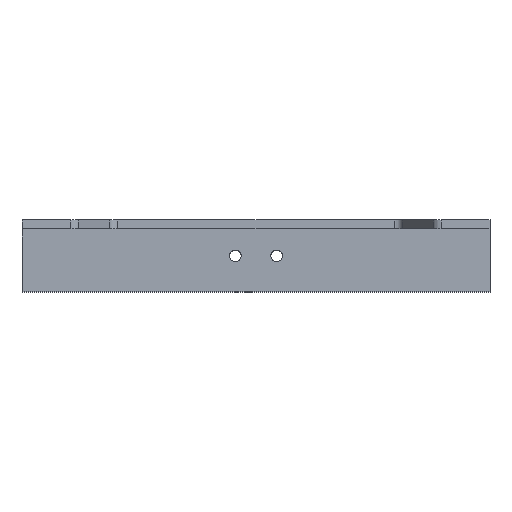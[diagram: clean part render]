
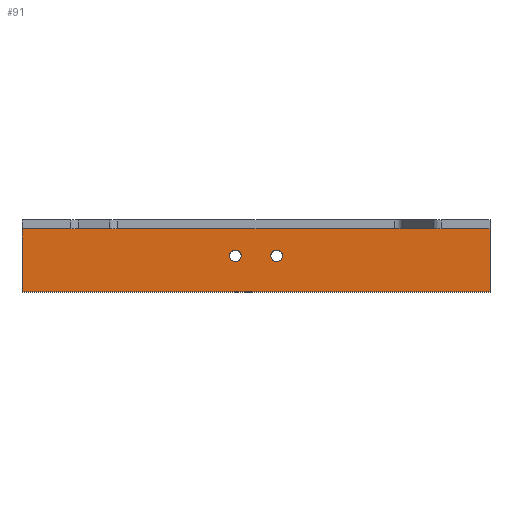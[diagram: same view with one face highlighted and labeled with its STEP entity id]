
A CAD part, top view. The second image highlights one B-rep face of the part: STEP entity #91.
In plain terms, the highlighted planar face has unit normal (0, 0, 1).
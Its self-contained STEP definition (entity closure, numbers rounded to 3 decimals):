
#91 = ADVANCED_FACE ( 'NONE', ( #2354, #2188, #671 ), #497, .F. ) ;
#125 = VERTEX_POINT ( 'NONE', #279 ) ;
#134 = CARTESIAN_POINT ( 'NONE',  ( 260., 35., 5. ) ) ;
#151 = CARTESIAN_POINT ( 'NONE',  ( 141.5, 20., 5. ) ) ;
#166 = DIRECTION ( 'NONE',  ( 0., 0., 1. ) ) ;
#244 = ORIENTED_EDGE ( 'NONE', *, *, #1656, .T. ) ;
#269 = DIRECTION ( 'NONE',  ( -1., 0., 0. ) ) ;
#279 = CARTESIAN_POINT ( 'NONE',  ( 138.25, 20., 5. ) ) ;
#285 = CIRCLE ( 'NONE', #1238, 3.25 ) ;
#401 = CARTESIAN_POINT ( 'NONE',  ( 0., 0., 5. ) ) ;
#415 = CARTESIAN_POINT ( 'NONE',  ( 118.5, 20., 5. ) ) ;
#481 = DIRECTION ( 'NONE',  ( 0., 0., -1. ) ) ;
#497 = PLANE ( 'NONE',  #1064 ) ;
#520 = EDGE_CURVE ( 'NONE', #581, #1467, #1740, .T. ) ;
#522 = CARTESIAN_POINT ( 'NONE',  ( 141.5, 20., 5. ) ) ;
#526 = CARTESIAN_POINT ( 'NONE',  ( 0., 0., 5. ) ) ;
#581 = VERTEX_POINT ( 'NONE', #1644 ) ;
#671 = FACE_OUTER_BOUND ( 'NONE', #2325, .T. ) ;
#680 = CARTESIAN_POINT ( 'NONE',  ( 0., 0., 5. ) ) ;
#682 = AXIS2_PLACEMENT_3D ( 'NONE', #1136, #921, #2242 ) ;
#750 = EDGE_CURVE ( 'NONE', #1467, #581, #880, .T. ) ;
#763 = EDGE_CURVE ( 'NONE', #2407, #2302, #2118, .T. ) ;
#775 = EDGE_LOOP ( 'NONE', ( #2061, #1659 ) ) ;
#813 = CARTESIAN_POINT ( 'NONE',  ( 144.75, 20., 5. ) ) ;
#849 = LINE ( 'NONE', #1213, #1004 ) ;
#858 = CARTESIAN_POINT ( 'NONE',  ( 260., 0., 5. ) ) ;
#880 = CIRCLE ( 'NONE', #1388, 3.25 ) ;
#921 = DIRECTION ( 'NONE',  ( 0., 0., 1. ) ) ;
#972 = EDGE_CURVE ( 'NONE', #125, #2201, #1742, .T. ) ;
#1004 = VECTOR ( 'NONE', #2130, 1000. ) ;
#1064 = AXIS2_PLACEMENT_3D ( 'NONE', #680, #481, #269 ) ;
#1132 = LINE ( 'NONE', #2292, #1668 ) ;
#1136 = CARTESIAN_POINT ( 'NONE',  ( 118.5, 20., 5. ) ) ;
#1169 = ORIENTED_EDGE ( 'NONE', *, *, #1733, .T. ) ;
#1213 = CARTESIAN_POINT ( 'NONE',  ( 260., 0., 5. ) ) ;
#1238 = AXIS2_PLACEMENT_3D ( 'NONE', #151, #1466, #1480 ) ;
#1263 = VERTEX_POINT ( 'NONE', #2173 ) ;
#1304 = DIRECTION ( 'NONE',  ( 1., 0., 0. ) ) ;
#1354 = AXIS2_PLACEMENT_3D ( 'NONE', #522, #166, #1304 ) ;
#1369 = EDGE_LOOP ( 'NONE', ( #1376, #2394 ) ) ;
#1374 = EDGE_CURVE ( 'NONE', #2201, #125, #285, .T. ) ;
#1376 = ORIENTED_EDGE ( 'NONE', *, *, #1374, .F. ) ;
#1388 = AXIS2_PLACEMENT_3D ( 'NONE', #415, #1555, #1914 ) ;
#1423 = VERTEX_POINT ( 'NONE', #134 ) ;
#1466 = DIRECTION ( 'NONE',  ( 0., 0., 1. ) ) ;
#1467 = VERTEX_POINT ( 'NONE', #1661 ) ;
#1480 = DIRECTION ( 'NONE',  ( 1., 0., 0. ) ) ;
#1555 = DIRECTION ( 'NONE',  ( 0., 0., 1. ) ) ;
#1644 = CARTESIAN_POINT ( 'NONE',  ( 115.25, 20., 5. ) ) ;
#1656 = EDGE_CURVE ( 'NONE', #1263, #2407, #1132, .T. ) ;
#1659 = ORIENTED_EDGE ( 'NONE', *, *, #520, .F. ) ;
#1661 = CARTESIAN_POINT ( 'NONE',  ( 121.75, 20., 5. ) ) ;
#1668 = VECTOR ( 'NONE', #1769, 1000. ) ;
#1672 = LINE ( 'NONE', #2072, #2142 ) ;
#1733 = EDGE_CURVE ( 'NONE', #2302, #1423, #849, .T. ) ;
#1740 = CIRCLE ( 'NONE', #682, 3.25 ) ;
#1742 = CIRCLE ( 'NONE', #1354, 3.25 ) ;
#1769 = DIRECTION ( 'NONE',  ( 0., -1., 0. ) ) ;
#1868 = DIRECTION ( 'NONE',  ( -1., 0., 0. ) ) ;
#1914 = DIRECTION ( 'NONE',  ( 1., 0., 0. ) ) ;
#1930 = ORIENTED_EDGE ( 'NONE', *, *, #2022, .T. ) ;
#2022 = EDGE_CURVE ( 'NONE', #1423, #1263, #1672, .T. ) ;
#2061 = ORIENTED_EDGE ( 'NONE', *, *, #750, .F. ) ;
#2072 = CARTESIAN_POINT ( 'NONE',  ( 0., 35., 5. ) ) ;
#2075 = ORIENTED_EDGE ( 'NONE', *, *, #763, .T. ) ;
#2103 = VECTOR ( 'NONE', #2298, 1000. ) ;
#2118 = LINE ( 'NONE', #401, #2103 ) ;
#2130 = DIRECTION ( 'NONE',  ( 0., 1., 0. ) ) ;
#2142 = VECTOR ( 'NONE', #1868, 1000. ) ;
#2173 = CARTESIAN_POINT ( 'NONE',  ( 0., 35., 5. ) ) ;
#2188 = FACE_BOUND ( 'NONE', #1369, .T. ) ;
#2201 = VERTEX_POINT ( 'NONE', #813 ) ;
#2242 = DIRECTION ( 'NONE',  ( 1., 0., 0. ) ) ;
#2292 = CARTESIAN_POINT ( 'NONE',  ( 0., 0., 5. ) ) ;
#2298 = DIRECTION ( 'NONE',  ( 1., 0., 0. ) ) ;
#2302 = VERTEX_POINT ( 'NONE', #858 ) ;
#2325 = EDGE_LOOP ( 'NONE', ( #244, #2075, #1169, #1930 ) ) ;
#2354 = FACE_BOUND ( 'NONE', #775, .T. ) ;
#2394 = ORIENTED_EDGE ( 'NONE', *, *, #972, .F. ) ;
#2407 = VERTEX_POINT ( 'NONE', #526 ) ;
